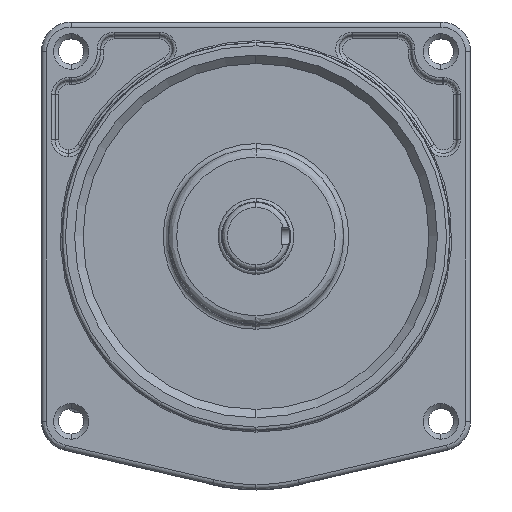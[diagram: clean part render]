
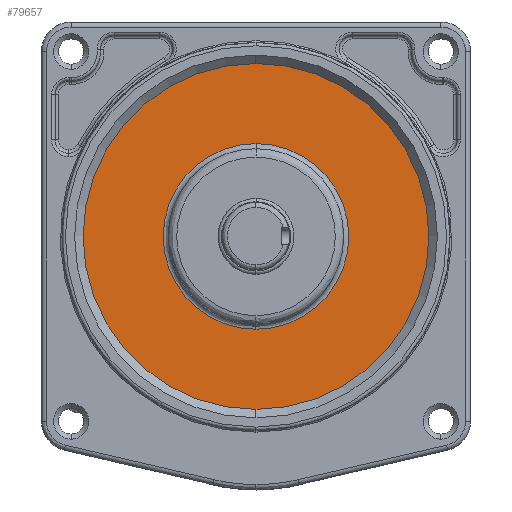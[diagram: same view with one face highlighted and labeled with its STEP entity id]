
A CAD part, top view. The second image highlights one B-rep face of the part: STEP entity #79657.
In plain terms, the highlighted planar face has unit normal (0, 0, 1) as drawn and (0, 1, 0) by its records, which use the part's own axes.
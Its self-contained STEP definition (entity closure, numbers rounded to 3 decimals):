
#7872 = EDGE_LOOP ( 'NONE', ( #44918, #44920 ) ) ;
#7964 = EDGE_LOOP ( 'NONE', ( #44922, #44924 ) ) ;
#24053 = AXIS2_PLACEMENT_3D ( 'NONE', #41240, #41244, #41245 ) ;
#24056 = AXIS2_PLACEMENT_3D ( 'NONE', #41246, #41250, #41251 ) ;
#31541 = CIRCLE ( 'NONE', #67368, 102.5 ) ;
#31578 = CIRCLE ( 'NONE', #67395, 55. ) ;
#35938 = FACE_BOUND ( 'NONE', #7872, .T. ) ;
#35939 = FACE_OUTER_BOUND ( 'NONE', #7964, .T. ) ;
#35941 = AXIS2_PLACEMENT_3D ( 'NONE', #96665, #96668, #96670 ) ;
#41240 = CARTESIAN_POINT ( 'NONE',  ( 0., 139.5, -36. ) ) ;
#41244 = DIRECTION ( 'NONE',  ( 0., 1., 0. ) ) ;
#41245 = DIRECTION ( 'NONE',  ( -1., 0., 0. ) ) ;
#41246 = CARTESIAN_POINT ( 'NONE',  ( 0., 139.5, -36. ) ) ;
#41250 = DIRECTION ( 'NONE',  ( 0., -1., 0. ) ) ;
#41251 = DIRECTION ( 'NONE',  ( 1., 0., 0. ) ) ;
#42262 = CARTESIAN_POINT ( 'NONE',  ( 0., 139.5, -36. ) ) ;
#42266 = DIRECTION ( 'NONE',  ( 0., -1., 0. ) ) ;
#42267 = DIRECTION ( 'NONE',  ( 1., 0., 0. ) ) ;
#42419 = CARTESIAN_POINT ( 'NONE',  ( 0., 139.5, -36. ) ) ;
#42420 = DIRECTION ( 'NONE',  ( 0., 1., 0. ) ) ;
#42421 = DIRECTION ( 'NONE',  ( -1., 0., 0. ) ) ;
#44918 = ORIENTED_EDGE ( 'NONE', *, *, #81009, .F. ) ;
#44920 = ORIENTED_EDGE ( 'NONE', *, *, #96866, .F. ) ;
#44922 = ORIENTED_EDGE ( 'NONE', *, *, #96771, .F. ) ;
#44924 = ORIENTED_EDGE ( 'NONE', *, *, #81011, .F. ) ;
#67368 = AXIS2_PLACEMENT_3D ( 'NONE', #42262, #42266, #42267 ) ;
#67395 = AXIS2_PLACEMENT_3D ( 'NONE', #42419, #42420, #42421 ) ;
#79657 = ADVANCED_FACE ( 'NONE', ( #35938, #35939 ), #96662, .T. ) ;
#81009 = EDGE_CURVE ( 'NONE', #115947, #115948, #83851, .T. ) ;
#81011 = EDGE_CURVE ( 'NONE', #115953, #115954, #83852, .T. ) ;
#83851 = CIRCLE ( 'NONE', #24053, 55. ) ;
#83852 = CIRCLE ( 'NONE', #24056, 102.5 ) ;
#89985 = CARTESIAN_POINT ( 'NONE',  ( 0., 139.5, 19. ) ) ;
#89986 = CARTESIAN_POINT ( 'NONE',  ( 0., 139.5, -91. ) ) ;
#89991 = CARTESIAN_POINT ( 'NONE',  ( 0., 139.5, -138.5 ) ) ;
#89992 = CARTESIAN_POINT ( 'NONE',  ( 0., 139.5, 66.5 ) ) ;
#96662 = PLANE ( 'NONE',  #35941 ) ;
#96665 = CARTESIAN_POINT ( 'NONE',  ( -106.6, 139.5, 70.688 ) ) ;
#96668 = DIRECTION ( 'NONE',  ( 0., 1., 0. ) ) ;
#96670 = DIRECTION ( 'NONE',  ( 0., 0., 1. ) ) ;
#96771 = EDGE_CURVE ( 'NONE', #115954, #115953, #31541, .T. ) ;
#96866 = EDGE_CURVE ( 'NONE', #115948, #115947, #31578, .T. ) ;
#115947 = VERTEX_POINT ( 'NONE', #89985 ) ;
#115948 = VERTEX_POINT ( 'NONE', #89986 ) ;
#115953 = VERTEX_POINT ( 'NONE', #89991 ) ;
#115954 = VERTEX_POINT ( 'NONE', #89992 ) ;
